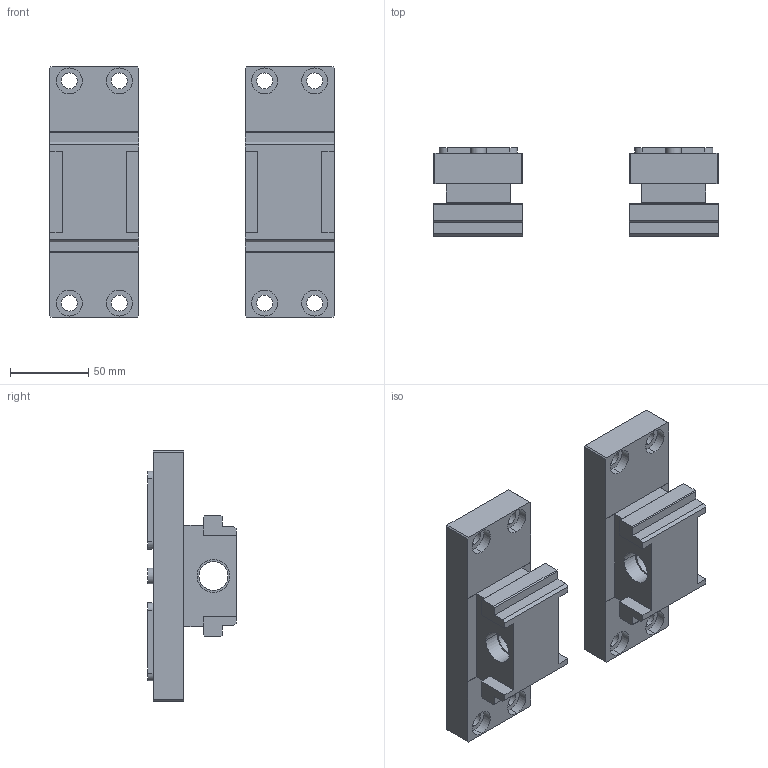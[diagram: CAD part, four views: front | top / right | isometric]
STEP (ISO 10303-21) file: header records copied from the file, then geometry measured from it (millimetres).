
FILE_DESCRIPTION (( 'STEP AP203' ), '1' );
FILE_NAME ('49251.STEP', '2016-11-29T09:09:54', ( '' ), ( '' ), 'SwSTEP 2.0', 'SolidWorks 2015', '' );
FILE_SCHEMA (( 'CONFIG_CONTROL_DESIGN' ));
Length unit declared in the file: millimetre
Products named in the file (2): 49251
Assembly tree (2 placements, depth 2):
  49251
    49251  x2
Bounding box: 181.78 x 56.5 x 160 mm (x, y, z)
Volume: 522258 mm3; surface area: 96708.7 mm2
Topology: 8 solids, 8 shells, 228 faces, 582 edges, 388 vertices
Faces by surface type: plane 150, cylinder 78
Entity records: 3695 total; most frequent: DIRECTION 607, CARTESIAN_POINT 604, ORIENTED_EDGE 582, EDGE_CURVE 291, LINE 213, VECTOR 213, AXIS2_PLACEMENT_3D 197, VERTEX_POINT 194
